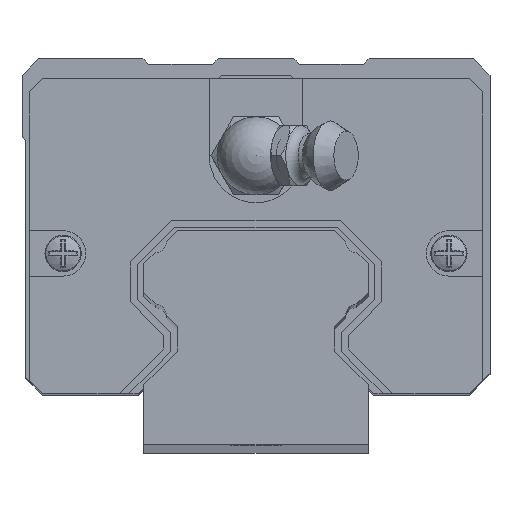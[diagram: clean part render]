
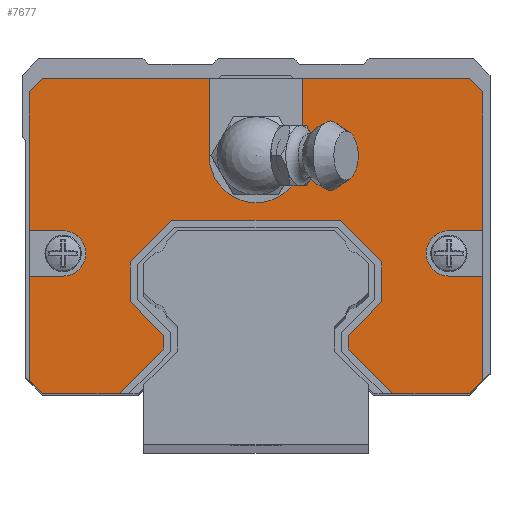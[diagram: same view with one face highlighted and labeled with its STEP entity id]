
A CAD part, top view. The second image highlights one B-rep face of the part: STEP entity #7677.
In plain terms, the highlighted planar face has unit normal (0, 0, 1).
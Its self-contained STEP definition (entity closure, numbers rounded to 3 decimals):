
#582=LINE('',#12337,#1392);
#586=LINE('',#12345,#1396);
#587=LINE('',#12347,#1397);
#588=LINE('',#12349,#1398);
#589=LINE('',#12351,#1399);
#590=LINE('',#12353,#1400);
#591=LINE('',#12355,#1401);
#592=LINE('',#12357,#1402);
#593=LINE('',#12359,#1403);
#594=LINE('',#12361,#1404);
#595=LINE('',#12363,#1405);
#596=LINE('',#12365,#1406);
#597=LINE('',#12367,#1407);
#598=LINE('',#12369,#1408);
#599=LINE('',#12371,#1409);
#600=LINE('',#12373,#1410);
#601=LINE('',#12377,#1411);
#602=LINE('',#12379,#1412);
#603=LINE('',#12381,#1413);
#604=LINE('',#12383,#1414);
#605=LINE('',#12385,#1415);
#606=LINE('',#12389,#1416);
#607=LINE('',#12391,#1417);
#608=LINE('',#12393,#1418);
#609=LINE('',#12395,#1419);
#610=LINE('',#12396,#1420);
#611=LINE('',#12398,#1421);
#612=LINE('',#12400,#1422);
#613=LINE('',#12401,#1423);
#1392=VECTOR('',#10013,1000.);
#1396=VECTOR('',#10019,1000.);
#1397=VECTOR('',#10020,1000.);
#1398=VECTOR('',#10021,1000.);
#1399=VECTOR('',#10022,1000.);
#1400=VECTOR('',#10023,1000.);
#1401=VECTOR('',#10024,1000.);
#1402=VECTOR('',#10025,1000.);
#1403=VECTOR('',#10026,1000.);
#1404=VECTOR('',#10027,1000.);
#1405=VECTOR('',#10028,1000.);
#1406=VECTOR('',#10029,1000.);
#1407=VECTOR('',#10030,1000.);
#1408=VECTOR('',#10031,1000.);
#1409=VECTOR('',#10032,1000.);
#1410=VECTOR('',#10033,1000.);
#1411=VECTOR('',#10036,1000.);
#1412=VECTOR('',#10037,1000.);
#1413=VECTOR('',#10038,1000.);
#1414=VECTOR('',#10039,1000.);
#1415=VECTOR('',#10040,1000.);
#1416=VECTOR('',#10043,1000.);
#1417=VECTOR('',#10044,1000.);
#1418=VECTOR('',#10045,1000.);
#1419=VECTOR('',#10046,1000.);
#1420=VECTOR('',#10047,1000.);
#1421=VECTOR('',#10048,1000.);
#1422=VECTOR('',#10049,1000.);
#1423=VECTOR('',#10050,1000.);
#1881=PLANE('',#8342);
#2511=FACE_OUTER_BOUND('',#3010,.T.);
#3010=EDGE_LOOP('',(#6673,#6674,#6675,#6676,#6677,#6678,#6679,#6680,#6681,
#6682,#6683,#6684,#6685,#6686,#6687,#6688,#6689,#6690,#6691,#6692,#6693,
#6694,#6695,#6696,#6697,#6698,#6699,#6700,#6701,#6702,#6703,#6704));
#3361=CIRCLE('',#8340,2.328);
#3362=CIRCLE('',#8343,2.328);
#3363=CIRCLE('',#8344,4.8);
#3930=VERTEX_POINT('',#12321);
#3931=VERTEX_POINT('',#12323);
#3936=VERTEX_POINT('',#12334);
#3937=VERTEX_POINT('',#12336);
#3940=VERTEX_POINT('',#12344);
#3941=VERTEX_POINT('',#12346);
#3942=VERTEX_POINT('',#12348);
#3943=VERTEX_POINT('',#12350);
#3944=VERTEX_POINT('',#12352);
#3945=VERTEX_POINT('',#12354);
#3946=VERTEX_POINT('',#12356);
#3947=VERTEX_POINT('',#12358);
#3948=VERTEX_POINT('',#12360);
#3949=VERTEX_POINT('',#12362);
#3950=VERTEX_POINT('',#12364);
#3951=VERTEX_POINT('',#12366);
#3952=VERTEX_POINT('',#12368);
#3953=VERTEX_POINT('',#12370);
#3954=VERTEX_POINT('',#12372);
#3955=VERTEX_POINT('',#12374);
#3956=VERTEX_POINT('',#12376);
#3957=VERTEX_POINT('',#12378);
#3958=VERTEX_POINT('',#12380);
#3959=VERTEX_POINT('',#12382);
#3960=VERTEX_POINT('',#12384);
#3961=VERTEX_POINT('',#12386);
#3962=VERTEX_POINT('',#12388);
#3963=VERTEX_POINT('',#12390);
#3964=VERTEX_POINT('',#12392);
#3965=VERTEX_POINT('',#12394);
#3966=VERTEX_POINT('',#12397);
#3967=VERTEX_POINT('',#12399);
#4889=EDGE_CURVE('',#3930,#3931,#3361,.T.);
#4895=EDGE_CURVE('',#3937,#3936,#582,.T.);
#4899=EDGE_CURVE('',#3936,#3940,#586,.T.);
#4900=EDGE_CURVE('',#3940,#3941,#587,.T.);
#4901=EDGE_CURVE('',#3941,#3942,#588,.T.);
#4902=EDGE_CURVE('',#3942,#3943,#589,.T.);
#4903=EDGE_CURVE('',#3943,#3944,#590,.T.);
#4904=EDGE_CURVE('',#3944,#3945,#591,.T.);
#4905=EDGE_CURVE('',#3945,#3946,#592,.T.);
#4906=EDGE_CURVE('',#3946,#3947,#593,.T.);
#4907=EDGE_CURVE('',#3947,#3948,#594,.T.);
#4908=EDGE_CURVE('',#3948,#3949,#595,.T.);
#4909=EDGE_CURVE('',#3949,#3950,#596,.T.);
#4910=EDGE_CURVE('',#3950,#3951,#597,.T.);
#4911=EDGE_CURVE('',#3951,#3952,#598,.T.);
#4912=EDGE_CURVE('',#3952,#3953,#599,.T.);
#4913=EDGE_CURVE('',#3953,#3954,#600,.T.);
#4914=EDGE_CURVE('',#3954,#3955,#3362,.T.);
#4915=EDGE_CURVE('',#3955,#3956,#601,.T.);
#4916=EDGE_CURVE('',#3956,#3957,#602,.T.);
#4917=EDGE_CURVE('',#3957,#3958,#603,.T.);
#4918=EDGE_CURVE('',#3958,#3959,#604,.T.);
#4919=EDGE_CURVE('',#3959,#3960,#605,.T.);
#4920=EDGE_CURVE('',#3960,#3961,#3363,.T.);
#4921=EDGE_CURVE('',#3961,#3962,#606,.T.);
#4922=EDGE_CURVE('',#3962,#3963,#607,.T.);
#4923=EDGE_CURVE('',#3963,#3964,#608,.T.);
#4924=EDGE_CURVE('',#3964,#3965,#609,.T.);
#4925=EDGE_CURVE('',#3965,#3931,#610,.T.);
#4926=EDGE_CURVE('',#3930,#3966,#611,.T.);
#4927=EDGE_CURVE('',#3966,#3967,#612,.T.);
#4928=EDGE_CURVE('',#3967,#3937,#613,.T.);
#6673=ORIENTED_EDGE('',*,*,#4899,.T.);
#6674=ORIENTED_EDGE('',*,*,#4900,.T.);
#6675=ORIENTED_EDGE('',*,*,#4901,.T.);
#6676=ORIENTED_EDGE('',*,*,#4902,.T.);
#6677=ORIENTED_EDGE('',*,*,#4903,.T.);
#6678=ORIENTED_EDGE('',*,*,#4904,.T.);
#6679=ORIENTED_EDGE('',*,*,#4905,.T.);
#6680=ORIENTED_EDGE('',*,*,#4906,.T.);
#6681=ORIENTED_EDGE('',*,*,#4907,.T.);
#6682=ORIENTED_EDGE('',*,*,#4908,.T.);
#6683=ORIENTED_EDGE('',*,*,#4909,.T.);
#6684=ORIENTED_EDGE('',*,*,#4910,.T.);
#6685=ORIENTED_EDGE('',*,*,#4911,.T.);
#6686=ORIENTED_EDGE('',*,*,#4912,.T.);
#6687=ORIENTED_EDGE('',*,*,#4913,.T.);
#6688=ORIENTED_EDGE('',*,*,#4914,.T.);
#6689=ORIENTED_EDGE('',*,*,#4915,.T.);
#6690=ORIENTED_EDGE('',*,*,#4916,.T.);
#6691=ORIENTED_EDGE('',*,*,#4917,.T.);
#6692=ORIENTED_EDGE('',*,*,#4918,.T.);
#6693=ORIENTED_EDGE('',*,*,#4919,.T.);
#6694=ORIENTED_EDGE('',*,*,#4920,.T.);
#6695=ORIENTED_EDGE('',*,*,#4921,.T.);
#6696=ORIENTED_EDGE('',*,*,#4922,.T.);
#6697=ORIENTED_EDGE('',*,*,#4923,.T.);
#6698=ORIENTED_EDGE('',*,*,#4924,.T.);
#6699=ORIENTED_EDGE('',*,*,#4925,.T.);
#6700=ORIENTED_EDGE('',*,*,#4889,.F.);
#6701=ORIENTED_EDGE('',*,*,#4926,.T.);
#6702=ORIENTED_EDGE('',*,*,#4927,.T.);
#6703=ORIENTED_EDGE('',*,*,#4928,.T.);
#6704=ORIENTED_EDGE('',*,*,#4895,.T.);
#7677=ADVANCED_FACE('',(#2511),#1881,.F.);
#8340=AXIS2_PLACEMENT_3D('',#12324,#10004,#10005);
#8342=AXIS2_PLACEMENT_3D('',#12343,#10017,#10018);
#8343=AXIS2_PLACEMENT_3D('',#12375,#10034,#10035);
#8344=AXIS2_PLACEMENT_3D('',#12387,#10041,#10042);
#10004=DIRECTION('center_axis',(0.,0.,1.));
#10005=DIRECTION('ref_axis',(1.,0.,0.));
#10013=DIRECTION('',(1.,0.,0.));
#10017=DIRECTION('center_axis',(0.,0.,-1.));
#10018=DIRECTION('ref_axis',(-1.,0.,0.));
#10019=DIRECTION('',(0.707,0.707,0.));
#10020=DIRECTION('',(0.,1.,0.));
#10021=DIRECTION('',(-0.707,0.707,0.));
#10022=DIRECTION('',(0.,1.,0.));
#10023=DIRECTION('',(0.707,0.707,0.));
#10024=DIRECTION('',(1.,0.,0.));
#10025=DIRECTION('',(0.707,-0.707,0.));
#10026=DIRECTION('',(0.,-1.,0.));
#10027=DIRECTION('',(-0.707,-0.707,0.));
#10028=DIRECTION('',(0.,-1.,0.));
#10029=DIRECTION('',(0.707,-0.707,0.));
#10030=DIRECTION('',(1.,0.,0.));
#10031=DIRECTION('',(0.707,0.707,0.));
#10032=DIRECTION('',(0.,1.,0.));
#10033=DIRECTION('',(-1.,0.,0.));
#10034=DIRECTION('center_axis',(0.,0.,-1.));
#10035=DIRECTION('ref_axis',(-1.,0.,0.));
#10036=DIRECTION('',(1.,0.,0.));
#10037=DIRECTION('',(0.,1.,0.));
#10038=DIRECTION('',(-0.707,0.707,0.));
#10039=DIRECTION('',(-1.,0.,0.));
#10040=DIRECTION('',(0.,-1.,0.));
#10041=DIRECTION('center_axis',(0.,0.,-1.));
#10042=DIRECTION('ref_axis',(-1.,0.,0.));
#10043=DIRECTION('',(0.,1.,0.));
#10044=DIRECTION('',(-1.,0.,0.));
#10045=DIRECTION('',(-0.707,-0.707,0.));
#10046=DIRECTION('',(0.,-1.,0.));
#10047=DIRECTION('',(1.,0.,0.));
#10048=DIRECTION('',(-1.,0.,0.));
#10049=DIRECTION('',(0.,-1.,0.));
#10050=DIRECTION('',(0.707,-0.707,0.));
#12321=CARTESIAN_POINT('',(-19.788,12.072,42.));
#12323=CARTESIAN_POINT('',(-19.788,16.728,42.));
#12324=CARTESIAN_POINT('Origin',(-19.788,14.4,42.));
#12334=CARTESIAN_POINT('',(-14.027,0.,42.));
#12336=CARTESIAN_POINT('',(-21.909,0.,42.));
#12337=CARTESIAN_POINT('',(-21.909,0.,42.));
#12343=CARTESIAN_POINT('Origin',(0.,-21.909,
42.));
#12344=CARTESIAN_POINT('',(-9.436,4.591,42.));
#12345=CARTESIAN_POINT('',(-14.027,0.,42.));
#12346=CARTESIAN_POINT('',(-9.436,5.988,42.));
#12347=CARTESIAN_POINT('',(-9.436,4.591,42.));
#12348=CARTESIAN_POINT('',(-12.88,9.432,42.));
#12349=CARTESIAN_POINT('',(-9.436,5.988,42.));
#12350=CARTESIAN_POINT('',(-12.88,13.528,42.));
#12351=CARTESIAN_POINT('',(-12.88,9.432,42.));
#12352=CARTESIAN_POINT('',(-8.628,17.78,42.));
#12353=CARTESIAN_POINT('',(-12.88,13.528,42.));
#12354=CARTESIAN_POINT('',(8.628,17.78,42.));
#12355=CARTESIAN_POINT('',(-8.628,17.78,42.));
#12356=CARTESIAN_POINT('',(12.88,13.528,42.));
#12357=CARTESIAN_POINT('',(12.88,13.528,42.));
#12358=CARTESIAN_POINT('',(12.88,9.432,42.));
#12359=CARTESIAN_POINT('',(12.88,9.432,42.));
#12360=CARTESIAN_POINT('',(9.436,5.988,42.));
#12361=CARTESIAN_POINT('',(9.436,5.988,42.));
#12362=CARTESIAN_POINT('',(9.436,4.591,42.));
#12363=CARTESIAN_POINT('',(9.436,4.591,42.));
#12364=CARTESIAN_POINT('',(14.027,0.,42.));
#12365=CARTESIAN_POINT('',(14.027,0.,42.));
#12366=CARTESIAN_POINT('',(21.909,0.,42.));
#12367=CARTESIAN_POINT('',(-21.909,0.,42.));
#12368=CARTESIAN_POINT('',(23.28,1.371,42.));
#12369=CARTESIAN_POINT('',(23.28,1.371,42.));
#12370=CARTESIAN_POINT('',(23.28,12.072,42.));
#12371=CARTESIAN_POINT('',(23.28,1.371,42.));
#12372=CARTESIAN_POINT('',(19.788,12.072,42.));
#12373=CARTESIAN_POINT('',(23.28,12.072,42.));
#12374=CARTESIAN_POINT('',(19.788,16.728,42.));
#12375=CARTESIAN_POINT('Origin',(19.788,14.4,42.));
#12376=CARTESIAN_POINT('',(23.28,16.728,42.));
#12377=CARTESIAN_POINT('',(19.788,16.728,42.));
#12378=CARTESIAN_POINT('',(23.28,30.965,42.));
#12379=CARTESIAN_POINT('',(23.28,1.371,42.));
#12380=CARTESIAN_POINT('',(21.909,32.336,42.));
#12381=CARTESIAN_POINT('',(23.28,30.965,42.));
#12382=CARTESIAN_POINT('',(4.8,32.336,42.));
#12383=CARTESIAN_POINT('',(-21.909,32.336,42.));
#12384=CARTESIAN_POINT('',(4.8,24.4,42.));
#12385=CARTESIAN_POINT('',(4.8,24.4,42.));
#12386=CARTESIAN_POINT('',(-4.8,24.4,42.));
#12387=CARTESIAN_POINT('Origin',(0.,24.4,42.));
#12388=CARTESIAN_POINT('',(-4.8,32.336,42.));
#12389=CARTESIAN_POINT('',(-4.8,32.336,42.));
#12390=CARTESIAN_POINT('',(-21.909,32.336,42.));
#12391=CARTESIAN_POINT('',(-21.909,32.336,42.));
#12392=CARTESIAN_POINT('',(-23.28,30.965,42.));
#12393=CARTESIAN_POINT('',(-23.28,30.965,42.));
#12394=CARTESIAN_POINT('',(-23.28,16.728,42.));
#12395=CARTESIAN_POINT('',(-23.28,1.371,42.));
#12396=CARTESIAN_POINT('',(-19.788,16.728,42.));
#12397=CARTESIAN_POINT('',(-23.28,12.072,42.));
#12398=CARTESIAN_POINT('',(-23.28,12.072,42.));
#12399=CARTESIAN_POINT('',(-23.28,1.371,42.));
#12400=CARTESIAN_POINT('',(-23.28,1.371,42.));
#12401=CARTESIAN_POINT('',(-23.28,1.371,42.));
